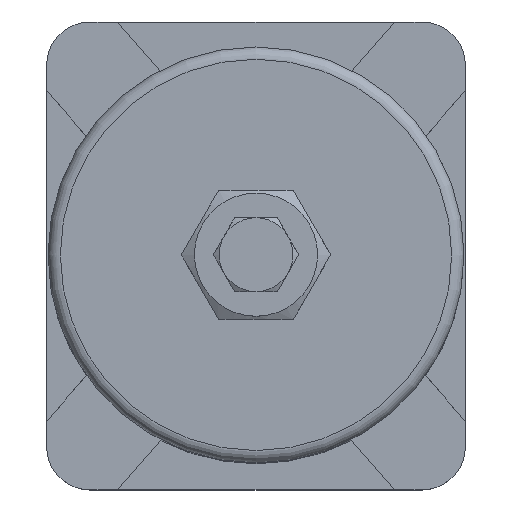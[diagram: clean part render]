
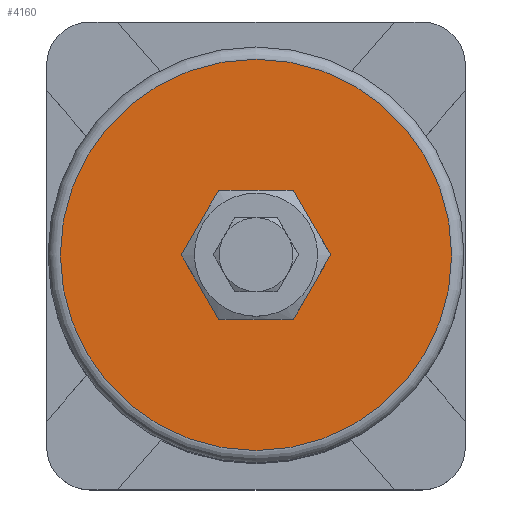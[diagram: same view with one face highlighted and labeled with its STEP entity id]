
A CAD part, top view. The second image highlights one B-rep face of the part: STEP entity #4160.
In plain terms, the highlighted planar face has unit normal (0, 0, 1).
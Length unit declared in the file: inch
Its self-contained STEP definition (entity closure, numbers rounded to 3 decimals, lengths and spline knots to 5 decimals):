
#1006=PLANE('',#4449);
#1087=FACE_BOUND('',#1544,.T.);
#1263=FACE_OUTER_BOUND('',#1543,.T.);
#1543=EDGE_LOOP('',(#3413));
#1544=EDGE_LOOP('',(#3414));
#1687=CIRCLE('',#4434,0.4375);
#1693=CIRCLE('',#4448,1.9863);
#1988=VERTEX_POINT('',#6394);
#1994=VERTEX_POINT('',#6414);
#2480=EDGE_CURVE('',#1988,#1988,#1687,.T.);
#2486=EDGE_CURVE('',#1994,#1994,#1693,.T.);
#3413=ORIENTED_EDGE('',*,*,#2486,.T.);
#3414=ORIENTED_EDGE('',*,*,#2480,.T.);
#4160=ADVANCED_FACE('',(#1263,#1087),#1006,.T.);
#4434=AXIS2_PLACEMENT_3D('',#6395,#5223,#5224);
#4448=AXIS2_PLACEMENT_3D('',#6415,#5251,#5252);
#4449=AXIS2_PLACEMENT_3D('',#6416,#5253,#5254);
#5223=DIRECTION('center_axis',(0.,0.,
-1.));
#5224=DIRECTION('ref_axis',(0.,-1.,0.));
#5251=DIRECTION('center_axis',(0.,0.,
1.));
#5252=DIRECTION('ref_axis',(-1.,0.,0.));
#5253=DIRECTION('center_axis',(0.,0.,
1.));
#5254=DIRECTION('ref_axis',(0.,-1.,0.));
#6394=CARTESIAN_POINT('',(0.,-0.4375,6.4375));
#6395=CARTESIAN_POINT('Origin',(0.,0.,
6.4375));
#6414=CARTESIAN_POINT('',(-1.9863,0.,6.4375));
#6415=CARTESIAN_POINT('Origin',(0.,0.,
6.4375));
#6416=CARTESIAN_POINT('Origin',(-0.99315,0.,
6.4375));
